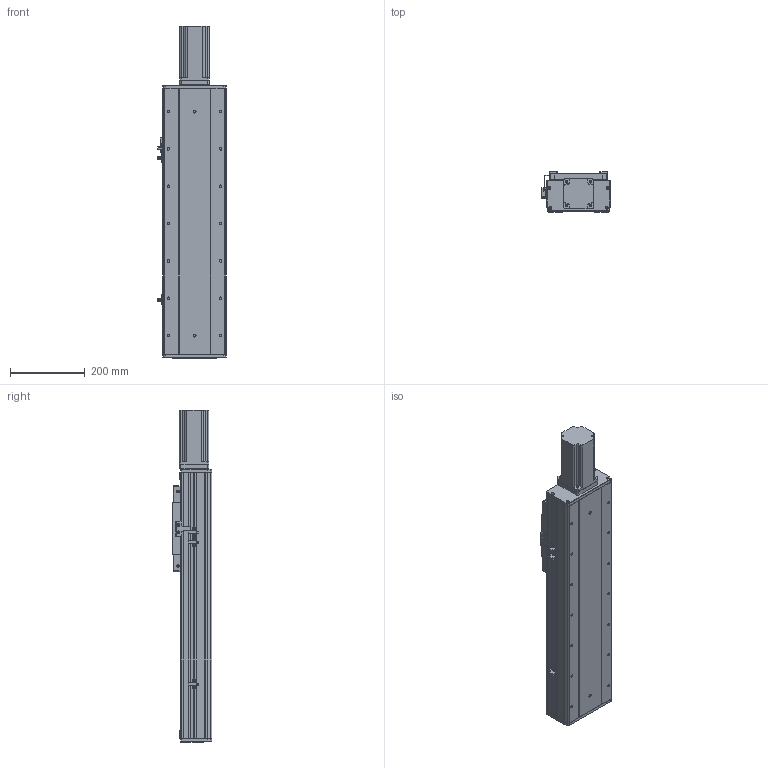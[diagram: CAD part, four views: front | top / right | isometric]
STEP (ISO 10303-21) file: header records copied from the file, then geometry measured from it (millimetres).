
FILE_DESCRIPTION (( 'STEP AP203' ), '1' );
FILE_NAME ('RY170F-L2020-300-MK.SLDASM_400.step', '2021-03-02T06:31:12', ( '盈信电脑' ), ( '东莞市道滘镇水果街19号' ), 'SwSTEP 2.0', 'SolidWorks 2012', '' );
FILE_SCHEMA (( 'CONFIG_CONTROL_DESIGN' ));
Length unit declared in the file: millimetre
Products named in the file (22): RY170F-直连前盖板(铝件）; 滅袉蝶18-10; 侂狟400W侜督萇儂; 15; 覜茼ん674; RY170F-L2020-300-MK.SLDASM_400; 750W萇儂梓袧蛌諉啣; 怢湛750W萇儂ㄗ80遺ㄘ; 侐源滅袉蝶; 滅袉蝶18-24; RY170F俋离覜茼え; RY170F-詩湍揤踡輸; RY170F-揤踡謫假蚾粣; 覜茼ん672; RY170F-后盖板(铝件）; RY100F-詩湍揤踡謫; RY170F-滅鳥奻裔; RY170F-丝杆铝滑块连接板; RY170F-佪裝臏賑輸20蹟譫; RY170F-300眻蟀倰第菁釱-MK_400; RY170F-300眻蟀倰第奻裔啣-MK_400; RY170F-300眻蟀祥凄詩湍-MK_400
Assembly tree (26 placements, depth 3):
  RY170F-L2020-300-MK.SLDASM_400
    RY170F-300眻蟀倰第菁釱-MK_400
    RY170F-300眻蟀祥凄詩湍-MK_400
    RY170F-300眻蟀倰第奻裔啣-MK_400  x2
    RY170F-滅鳥奻裔
    RY170F-佪裝臏賑輸20蹟譫
    RY170F-丝杆铝滑块连接板
    侂狟400W侜督萇儂
      15
    RY170F-直连前盖板(铝件）
    滅袉蝶18-10
    RY100F-詩湍揤踡謫
    RY170F-后盖板(铝件）
    覜茼ん672  x3
    RY170F俋离覜茼え
    RY170F-揤踡謫假蚾粣
    RY170F-詩湍揤踡輸  x2
    滅袉蝶18-24
    750W萇儂梓袧蛌諉啣
    怢湛750W萇儂ㄗ80遺ㄘ
    侐源滅袉蝶  x2
    覜茼ん674
Bounding box: 183.7 x 107 x 889 mm (x, y, z)
Volume: 5273692.4 mm3; surface area: 1532443.8 mm2
Topology: 25 solids, 25 shells, 2208 faces, 6087 edges, 3906 vertices
Faces by surface type: plane 1001, cylinder 973, cone 216, bspline 18
Entity records: 64743 total; most frequent: CARTESIAN_POINT 12809, DIRECTION 10597, ORIENTED_EDGE 10158, EDGE_CURVE 5079, AXIS2_PLACEMENT_3D 3760, VERTEX_POINT 3326, VECTOR 3077, LINE 3077
